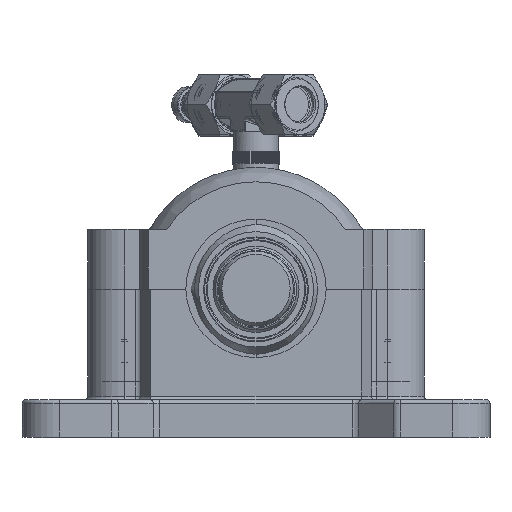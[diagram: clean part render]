
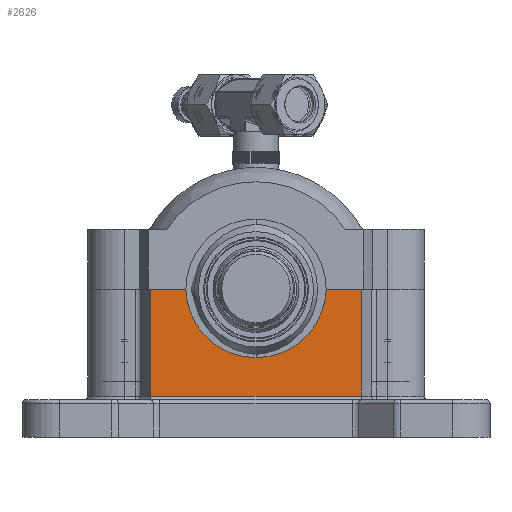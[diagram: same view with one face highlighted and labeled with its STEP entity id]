
A CAD part, top view. The second image highlights one B-rep face of the part: STEP entity #2626.
In plain terms, the highlighted planar face has unit normal (0, 0, 1) as drawn and (0, 1, 0) by its records, which use the part's own axes.
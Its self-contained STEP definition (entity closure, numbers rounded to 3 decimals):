
#745=LINE('',#14859,#1157);
#764=LINE('',#15010,#1176);
#765=LINE('',#15012,#1177);
#766=LINE('',#15016,#1178);
#767=LINE('',#15018,#1179);
#1157=VECTOR('',#10874,1.);
#1176=VECTOR('',#10971,1.);
#1177=VECTOR('',#10972,1.);
#1178=VECTOR('',#10975,1.);
#1179=VECTOR('',#10976,1.);
#2626=ADVANCED_FACE('',(#3312),#3045,.F.);
#3045=PLANE('',#9407);
#3312=FACE_OUTER_BOUND('',#3908,.T.);
#3908=EDGE_LOOP('',(#5090,#5091,#5092,#5093,#5094,#5095));
#5090=ORIENTED_EDGE('',*,*,#7721,.F.);
#5091=ORIENTED_EDGE('',*,*,#7767,.F.);
#5092=ORIENTED_EDGE('',*,*,#7768,.F.);
#5093=ORIENTED_EDGE('',*,*,#7769,.F.);
#5094=ORIENTED_EDGE('',*,*,#7770,.F.);
#5095=ORIENTED_EDGE('',*,*,#7771,.F.);
#6858=VERTEX_POINT('',#14858);
#6859=VERTEX_POINT('',#14860);
#6888=VERTEX_POINT('',#15011);
#6889=VERTEX_POINT('',#15013);
#6890=VERTEX_POINT('',#15015);
#6891=VERTEX_POINT('',#15017);
#7721=EDGE_CURVE('',#6858,#6859,#745,.T.);
#7767=EDGE_CURVE('',#6888,#6858,#764,.T.);
#7768=EDGE_CURVE('',#6889,#6888,#765,.T.);
#7769=EDGE_CURVE('',#6890,#6889,#8698,.T.);
#7770=EDGE_CURVE('',#6891,#6890,#766,.T.);
#7771=EDGE_CURVE('',#6859,#6891,#767,.T.);
#8698=CIRCLE('',#9406,18.75);
#9406=AXIS2_PLACEMENT_3D('',#15014,#10973,#10974);
#9407=AXIS2_PLACEMENT_3D('',#15019,#10977,#10978);
#10874=DIRECTION('',(-1.,0.,0.));
#10971=DIRECTION('',(0.,0.,1.));
#10972=DIRECTION('',(1.,0.,0.));
#10973=DIRECTION('',(0.,1.,0.));
#10974=DIRECTION('',(1.,0.,0.));
#10975=DIRECTION('',(1.,0.,0.));
#10976=DIRECTION('',(0.,0.,-1.));
#10977=DIRECTION('',(0.,-1.,0.));
#10978=DIRECTION('',(0.,0.,1.));
#14858=CARTESIAN_POINT('',(28.106,15.75,-1.));
#14859=CARTESIAN_POINT('',(14.053,15.75,-1.));
#14860=CARTESIAN_POINT('',(-28.106,15.75,-1.));
#15010=CARTESIAN_POINT('',(28.106,15.75,-14.75));
#15011=CARTESIAN_POINT('',(28.106,15.75,-29.5));
#15012=CARTESIAN_POINT('',(14.053,15.75,-29.5));
#15013=CARTESIAN_POINT('',(18.743,15.75,-29.5));
#15014=CARTESIAN_POINT('',(0.,15.75,-30.));
#15015=CARTESIAN_POINT('',(-18.743,15.75,-29.5));
#15016=CARTESIAN_POINT('',(14.053,15.75,-29.5));
#15017=CARTESIAN_POINT('',(-28.106,15.75,-29.5));
#15018=CARTESIAN_POINT('',(-28.106,15.75,-14.75));
#15019=CARTESIAN_POINT('',(28.106,15.75,-29.5));
